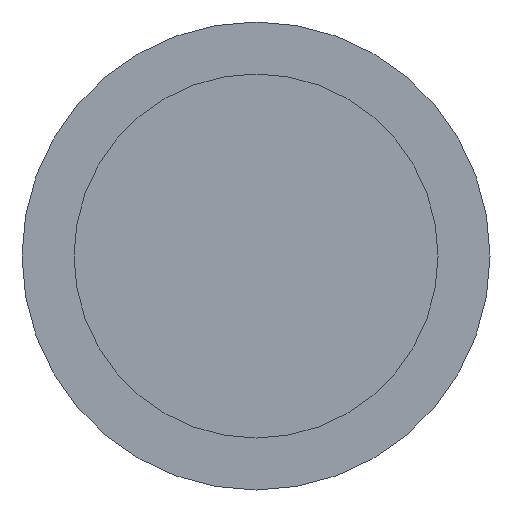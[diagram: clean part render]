
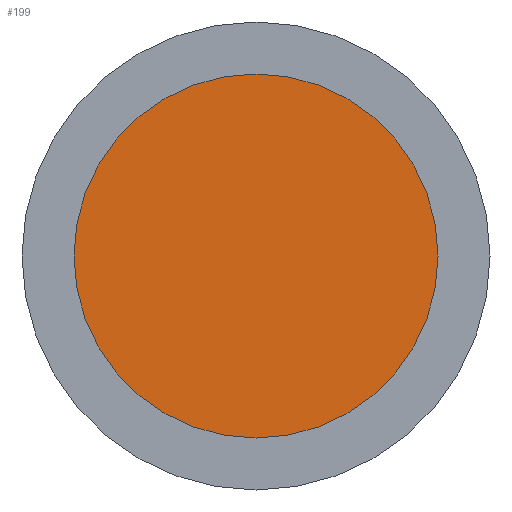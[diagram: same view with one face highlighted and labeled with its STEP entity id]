
A CAD part, front view. The second image highlights one B-rep face of the part: STEP entity #199.
In plain terms, the highlighted planar face has unit normal (0, -1, 0).
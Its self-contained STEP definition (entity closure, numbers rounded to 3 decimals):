
#129 = CYLINDRICAL_SURFACE('',#130,7.);
#130 = AXIS2_PLACEMENT_3D('',#131,#132,#133);
#131 = CARTESIAN_POINT('',(48.,60.7,-195.));
#132 = DIRECTION('',(0.,-1.,-0.));
#133 = DIRECTION('',(1.,0.,0.));
#149 = VERTEX_POINT('',#150);
#150 = CARTESIAN_POINT('',(55.,60.7,-195.));
#173 = EDGE_CURVE('',#149,#149,#174,.T.);
#174 = SURFACE_CURVE('',#175,(#180,#187),.PCURVE_S1.);
#175 = CIRCLE('',#176,7.);
#176 = AXIS2_PLACEMENT_3D('',#177,#178,#179);
#177 = CARTESIAN_POINT('',(48.,60.7,-195.));
#178 = DIRECTION('',(-0.,1.,0.));
#179 = DIRECTION('',(1.,0.,0.));
#180 = PCURVE('',#129,#181);
#181 = DEFINITIONAL_REPRESENTATION('',(#182),#186);
#182 = LINE('',#183,#184);
#183 = CARTESIAN_POINT('',(-0.,0.));
#184 = VECTOR('',#185,1.);
#185 = DIRECTION('',(-1.,0.));
#186 = ( GEOMETRIC_REPRESENTATION_CONTEXT(2) 
PARAMETRIC_REPRESENTATION_CONTEXT() REPRESENTATION_CONTEXT('2D SPACE',''
  ) );
#187 = PCURVE('',#188,#193);
#188 = PLANE('',#189);
#189 = AXIS2_PLACEMENT_3D('',#190,#191,#192);
#190 = CARTESIAN_POINT('',(48.,60.7,-195.));
#191 = DIRECTION('',(0.,1.,0.));
#192 = DIRECTION('',(0.,-0.,1.));
#193 = DEFINITIONAL_REPRESENTATION('',(#194),#198);
#194 = CIRCLE('',#195,7.);
#195 = AXIS2_PLACEMENT_2D('',#196,#197);
#196 = CARTESIAN_POINT('',(0.,0.));
#197 = DIRECTION('',(0.,1.));
#198 = ( GEOMETRIC_REPRESENTATION_CONTEXT(2) 
PARAMETRIC_REPRESENTATION_CONTEXT() REPRESENTATION_CONTEXT('2D SPACE',''
  ) );
#199 = ADVANCED_FACE('',(#200),#188,.F.);
#200 = FACE_BOUND('',#201,.F.);
#201 = EDGE_LOOP('',(#202));
#202 = ORIENTED_EDGE('',*,*,#173,.T.);
